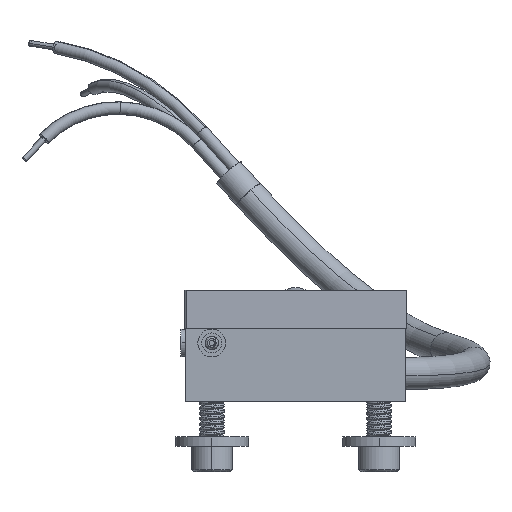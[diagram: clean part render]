
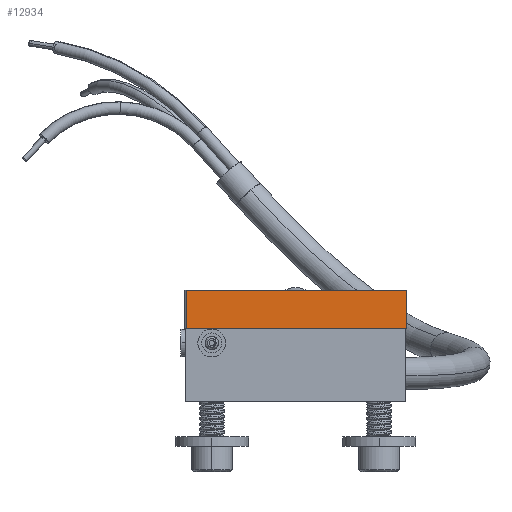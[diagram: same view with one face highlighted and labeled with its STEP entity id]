
A CAD part, left-side view. The second image highlights one B-rep face of the part: STEP entity #12934.
In plain terms, the highlighted planar face has unit normal (-1, -0.008, 0).
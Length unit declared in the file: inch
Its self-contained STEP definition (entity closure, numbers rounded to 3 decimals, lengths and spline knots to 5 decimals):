
#110 = VECTOR ( 'NONE', #9563, 39.37008 ) ;
#561 = AXIS2_PLACEMENT_3D ( 'NONE', #5695, #13679, #6869 ) ;
#1161 = VERTEX_POINT ( 'NONE', #12838 ) ;
#1243 = CARTESIAN_POINT ( 'NONE',  ( -0.89708, 0.2971, 0.37 ) ) ;
#1263 = CARTESIAN_POINT ( 'NONE',  ( -0.9029, 1.04708, 0.5 ) ) ;
#2085 = LINE ( 'NONE', #1243, #10952 ) ;
#2650 = EDGE_CURVE ( 'NONE', #5857, #3171, #2085, .T. ) ;
#2880 = EDGE_CURVE ( 'NONE', #1161, #3171, #9307, .T. ) ;
#3171 = VERTEX_POINT ( 'NONE', #9297 ) ;
#3663 = CARTESIAN_POINT ( 'NONE',  ( -0.9029, 1.04708, 0.37 ) ) ;
#3717 = EDGE_CURVE ( 'NONE', #1161, #8051, #11721, .T. ) ;
#5309 = LINE ( 'NONE', #1263, #8049 ) ;
#5535 = EDGE_LOOP ( 'NONE', ( #13952, #14477, #11874, #14566 ) ) ;
#5634 = VECTOR ( 'NONE', #5840, 39.37008 ) ;
#5695 = CARTESIAN_POINT ( 'NONE',  ( -0.9029, 1.04708, 0.37 ) ) ;
#5840 = DIRECTION ( 'NONE',  ( 0., 0., 1. ) ) ;
#5857 = VERTEX_POINT ( 'NONE', #13160 ) ;
#6195 = CARTESIAN_POINT ( 'NONE',  ( -0.9029, 1.04708, 0.37 ) ) ;
#6869 = DIRECTION ( 'NONE',  ( 0.008, -1., 0. ) ) ;
#7988 = PLANE ( 'NONE',  #561 ) ;
#8049 = VECTOR ( 'NONE', #9392, 39.37008 ) ;
#8051 = VERTEX_POINT ( 'NONE', #13583 ) ;
#9297 = CARTESIAN_POINT ( 'NONE',  ( -0.89708, 0.2971, 0.37 ) ) ;
#9307 = LINE ( 'NONE', #6195, #110 ) ;
#9392 = DIRECTION ( 'NONE',  ( 0.008, -1., 0. ) ) ;
#9411 = DIRECTION ( 'NONE',  ( 0., 0., -1. ) ) ;
#9563 = DIRECTION ( 'NONE',  ( 0.008, -1., 0. ) ) ;
#10952 = VECTOR ( 'NONE', #9411, 39.37008 ) ;
#11721 = LINE ( 'NONE', #3663, #5634 ) ;
#11874 = ORIENTED_EDGE ( 'NONE', *, *, #13163, .F. ) ;
#12838 = CARTESIAN_POINT ( 'NONE',  ( -0.9029, 1.04708, 0.37 ) ) ;
#12934 = ADVANCED_FACE ( 'NONE', ( #13733 ), #7988, .T. ) ;
#13160 = CARTESIAN_POINT ( 'NONE',  ( -0.89708, 0.2971, 0.5 ) ) ;
#13163 = EDGE_CURVE ( 'NONE', #8051, #5857, #5309, .T. ) ;
#13583 = CARTESIAN_POINT ( 'NONE',  ( -0.9029, 1.04708, 0.5 ) ) ;
#13679 = DIRECTION ( 'NONE',  ( -1., -0.008, 0. ) ) ;
#13733 = FACE_OUTER_BOUND ( 'NONE', #5535, .T. ) ;
#13952 = ORIENTED_EDGE ( 'NONE', *, *, #2880, .T. ) ;
#14477 = ORIENTED_EDGE ( 'NONE', *, *, #2650, .F. ) ;
#14566 = ORIENTED_EDGE ( 'NONE', *, *, #3717, .F. ) ;
